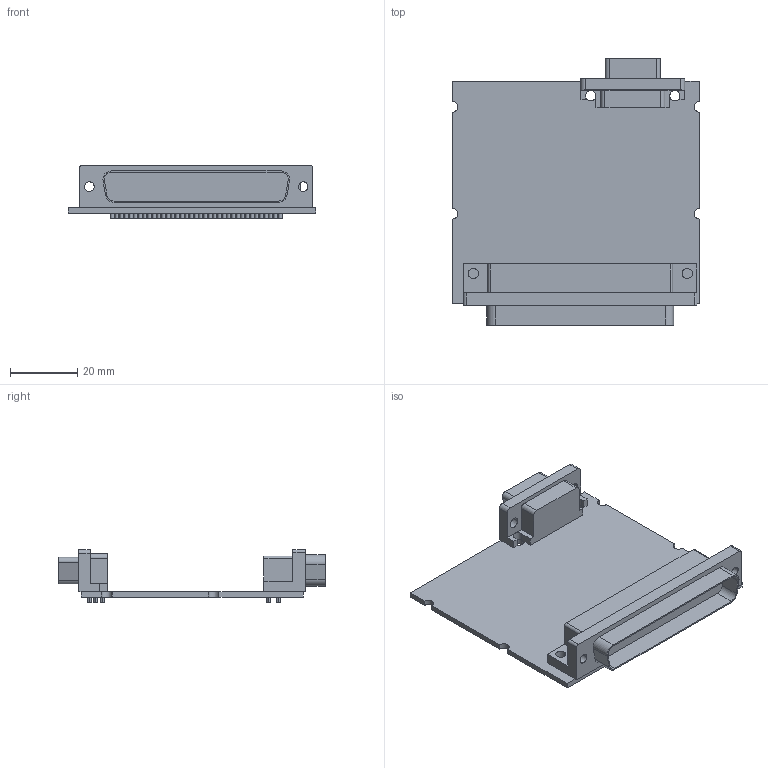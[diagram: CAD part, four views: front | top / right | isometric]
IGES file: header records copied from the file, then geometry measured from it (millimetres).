
Start section:  PTC IGES file: cd_db37.igs
Global section: file name: cd_db37.igs; native system: Pro/ENGINEER by Parametric Technology Corporation; preprocessor: 2006080; author: scarrasc; organization: Unknown; date: 100217.152900; units: inch
Bounding box: 73.38 x 79.15 x 15.72 mm (x, y, z)
Surface area: 15349.4 mm2 (no closed solid volume)
Topology: 0 solids, 0 shells, 253 faces, 1168 edges, 1168 vertices
Faces by surface type: revolution 144, bspline 109
